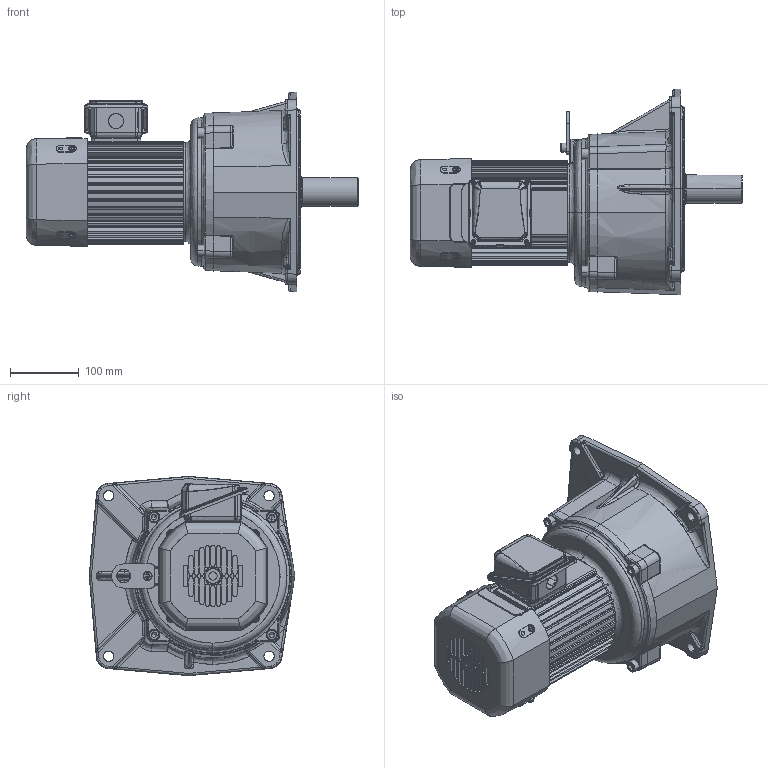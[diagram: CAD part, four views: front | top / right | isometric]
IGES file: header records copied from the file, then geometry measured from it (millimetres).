
Start section: SolidWorks IGES file using analytic representation for surfaces
Global section: file name: \\100.100.100.8\1_共有作業フォルダ\1-5_３Ｄデータ\solidworks\personal-folder\H.Nagayama\SGP1外形075~370\P1(3D)_075~370\igs\TMFB2-07-(100~200).IGS; native system: SolidWorks 2018; preprocessor: SolidWorks 2018; author: sigma-giken; date: 200806.160824; units: millimetre
Bounding box: 483 x 299 x 290 mm (x, y, z)
Surface area: 753926.7 mm2 (no closed solid volume)
Topology: 0 solids, 0 shells, 1711 faces, 20466 edges, 20389 vertices
Faces by surface type: bspline 863, revolution 848
